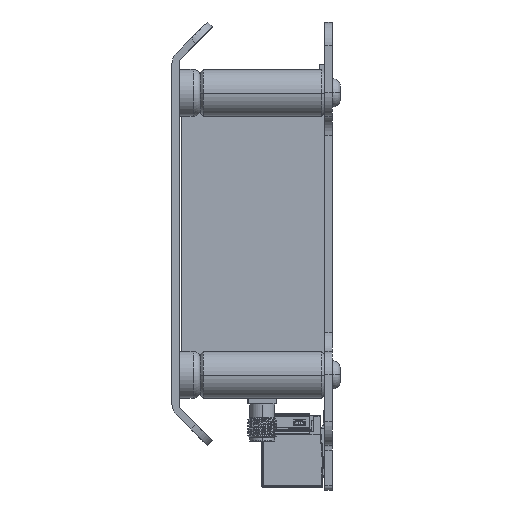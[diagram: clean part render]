
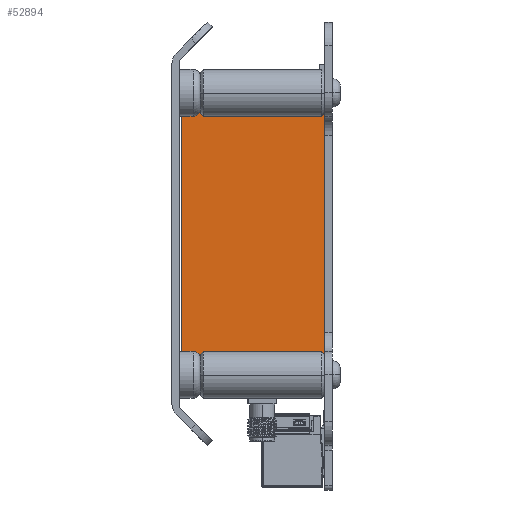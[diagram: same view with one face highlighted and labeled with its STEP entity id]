
A CAD part, left-side view. The second image highlights one B-rep face of the part: STEP entity #52894.
In plain terms, the highlighted planar face has unit normal (-1, 0, 0) as drawn and (0, 0, 1) by its records, which use the part's own axes.
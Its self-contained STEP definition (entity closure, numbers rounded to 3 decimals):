
#36 = LINE ( 'NONE', #51238, #3303 ) ;
#809 = DIRECTION ( 'NONE',  ( 0.423, 0.906, 0. ) ) ;
#1608 = VECTOR ( 'NONE', #37274, 1000. ) ;
#1854 = CARTESIAN_POINT ( 'NONE',  ( 1.156, 22.651, 1.6 ) ) ;
#2357 = CARTESIAN_POINT ( 'NONE',  ( 0., 0., 1.6 ) ) ;
#2648 = EDGE_CURVE ( 'NONE', #18624, #44728, #48655, .T. ) ;
#2911 = DIRECTION ( 'NONE',  ( 0., 0., 1. ) ) ;
#3127 = CARTESIAN_POINT ( 'NONE',  ( 67.2, 6.6, 1.6 ) ) ;
#3303 = VECTOR ( 'NONE', #47525, 1000. ) ;
#3489 = EDGE_CURVE ( 'NONE', #6807, #28738, #6637, .T. ) ;
#5268 = CARTESIAN_POINT ( 'NONE',  ( 66.044, 22.651, 1.6 ) ) ;
#5669 = DIRECTION ( 'NONE',  ( 0., 0., -1. ) ) ;
#5856 = EDGE_CURVE ( 'NONE', #12714, #46806, #50631, .T. ) ;
#6406 = DIRECTION ( 'NONE',  ( -0.053, 0.999, 0. ) ) ;
#6637 = LINE ( 'NONE', #17967, #8746 ) ;
#6807 = VERTEX_POINT ( 'NONE', #40993 ) ;
#6932 = EDGE_CURVE ( 'NONE', #46960, #24215, #36, .T. ) ;
#7369 = ORIENTED_EDGE ( 'NONE', *, *, #52528, .T. ) ;
#7688 = EDGE_CURVE ( 'NONE', #31958, #18624, #54524, .T. ) ;
#8057 = DIRECTION ( 'NONE',  ( 1., 0., 0. ) ) ;
#8223 = CARTESIAN_POINT ( 'NONE',  ( 1.1, 6.6, 1.6 ) ) ;
#8399 = CIRCLE ( 'NONE', #42212, 1.05 ) ;
#8746 = VECTOR ( 'NONE', #27135, 1000. ) ;
#8855 = ORIENTED_EDGE ( 'NONE', *, *, #7688, .T. ) ;
#9030 = EDGE_CURVE ( 'NONE', #46806, #45959, #17980, .T. ) ;
#9644 = CARTESIAN_POINT ( 'NONE',  ( 67.2, 0., 1.6 ) ) ;
#9915 = CARTESIAN_POINT ( 'NONE',  ( 1.156, 7.649, 1.6 ) ) ;
#10190 = LINE ( 'NONE', #9644, #53950 ) ;
#10527 = CARTESIAN_POINT ( 'NONE',  ( 1.156, 7.649, 1.6 ) ) ;
#10531 = CARTESIAN_POINT ( 'NONE',  ( 2.206, 22.651, 1.6 ) ) ;
#10606 = ORIENTED_EDGE ( 'NONE', *, *, #25832, .T. ) ;
#10804 = CARTESIAN_POINT ( 'NONE',  ( 66.1, 6.6, 1.6 ) ) ;
#11175 = VERTEX_POINT ( 'NONE', #39896 ) ;
#11266 = ORIENTED_EDGE ( 'NONE', *, *, #9030, .T. ) ;
#11530 = AXIS2_PLACEMENT_3D ( 'NONE', #1854, #28170, #6406 ) ;
#12714 = VERTEX_POINT ( 'NONE', #35511 ) ;
#13139 = VECTOR ( 'NONE', #19536, 1000. ) ;
#14100 = DIRECTION ( 'NONE',  ( 0., 0., -1. ) ) ;
#14133 = CARTESIAN_POINT ( 'NONE',  ( 0., 23.7, 1.6 ) ) ;
#14286 = CARTESIAN_POINT ( 'NONE',  ( 1.6, 21.7, 1.6 ) ) ;
#14306 = CARTESIAN_POINT ( 'NONE',  ( 67.2, 23.7, 1.6 ) ) ;
#14494 = ORIENTED_EDGE ( 'NONE', *, *, #29318, .T. ) ;
#15244 = CARTESIAN_POINT ( 'NONE',  ( 66.1, 23.7, 1.6 ) ) ;
#15471 = LINE ( 'NONE', #45829, #1608 ) ;
#15598 = EDGE_CURVE ( 'NONE', #51774, #11175, #8399, .T. ) ;
#17565 = DIRECTION ( 'NONE',  ( 0., 1., 0. ) ) ;
#17702 = CIRCLE ( 'NONE', #49694, 1.05 ) ;
#17967 = CARTESIAN_POINT ( 'NONE',  ( 0., 30.4, 1.6 ) ) ;
#17980 = CIRCLE ( 'NONE', #36302, 1.05 ) ;
#18119 = LINE ( 'NONE', #45029, #53335 ) ;
#18422 = CARTESIAN_POINT ( 'NONE',  ( 1.6, 21.7, 1.6 ) ) ;
#18624 = VERTEX_POINT ( 'NONE', #10531 ) ;
#19536 = DIRECTION ( 'NONE',  ( 0., -1., 0. ) ) ;
#20047 = VERTEX_POINT ( 'NONE', #14306 ) ;
#20183 = VERTEX_POINT ( 'NONE', #56057 ) ;
#20284 = VECTOR ( 'NONE', #44260, 1000. ) ;
#20801 = ORIENTED_EDGE ( 'NONE', *, *, #2648, .T. ) ;
#21356 = DIRECTION ( 'NONE',  ( -0.053, 0.999, 0. ) ) ;
#21692 = CARTESIAN_POINT ( 'NONE',  ( 65.6, 8.6, 1.6 ) ) ;
#22149 = ORIENTED_EDGE ( 'NONE', *, *, #33595, .T. ) ;
#22505 = VERTEX_POINT ( 'NONE', #15244 ) ;
#22517 = ORIENTED_EDGE ( 'NONE', *, *, #5856, .T. ) ;
#22702 = DIRECTION ( 'NONE',  ( 0., 0., -1. ) ) ;
#22754 = CARTESIAN_POINT ( 'NONE',  ( 1.6, 8.6, 1.6 ) ) ;
#24072 = CARTESIAN_POINT ( 'NONE',  ( 0., 23.7, 1.6 ) ) ;
#24215 = VERTEX_POINT ( 'NONE', #50897 ) ;
#25222 = VECTOR ( 'NONE', #33836, 1000. ) ;
#25558 = EDGE_LOOP ( 'NONE', ( #54016, #8855, #20801, #49835, #52908, #7369, #36897, #53404, #50078, #10606, #22517, #11266, #41059, #39685, #48172, #22149, #56113, #14494 ) ) ;
#25832 = EDGE_CURVE ( 'NONE', #46069, #12714, #10190, .T. ) ;
#26282 = CARTESIAN_POINT ( 'NONE',  ( 67.2, 0., 1.6 ) ) ;
#26589 = AXIS2_PLACEMENT_3D ( 'NONE', #44452, #14100, #21356 ) ;
#27107 = DIRECTION ( 'NONE',  ( 0., 1., 0. ) ) ;
#27117 = EDGE_CURVE ( 'NONE', #44728, #51774, #28015, .T. ) ;
#27135 = DIRECTION ( 'NONE',  ( -1., 0., 0. ) ) ;
#27377 = DIRECTION ( 'NONE',  ( 0., 0., -1. ) ) ;
#27675 = VECTOR ( 'NONE', #32618, 1000. ) ;
#28015 = LINE ( 'NONE', #14286, #27675 ) ;
#28170 = DIRECTION ( 'NONE',  ( 0., 0., -1. ) ) ;
#28738 = VERTEX_POINT ( 'NONE', #46143 ) ;
#29114 = CARTESIAN_POINT ( 'NONE',  ( 67.2, 23.7, 1.6 ) ) ;
#29135 = EDGE_CURVE ( 'NONE', #20183, #22505, #17702, .T. ) ;
#29256 = EDGE_CURVE ( 'NONE', #45959, #20183, #18119, .T. ) ;
#29318 = EDGE_CURVE ( 'NONE', #28738, #32522, #50735, .T. ) ;
#29530 = DIRECTION ( 'NONE',  ( 1., 0., 0. ) ) ;
#29543 = AXIS2_PLACEMENT_3D ( 'NONE', #10527, #5669, #54009 ) ;
#31482 = VERTEX_POINT ( 'NONE', #36963 ) ;
#31958 = VERTEX_POINT ( 'NONE', #52851 ) ;
#32522 = VERTEX_POINT ( 'NONE', #14133 ) ;
#32618 = DIRECTION ( 'NONE',  ( 0., -1., 0. ) ) ;
#33595 = EDGE_CURVE ( 'NONE', #20047, #6807, #46009, .T. ) ;
#33836 = DIRECTION ( 'NONE',  ( 1., 0., 0. ) ) ;
#34183 = VECTOR ( 'NONE', #8057, 1000. ) ;
#35511 = CARTESIAN_POINT ( 'NONE',  ( 67.2, 6.6, 1.6 ) ) ;
#36297 = DIRECTION ( 'NONE',  ( 0., 0., -1. ) ) ;
#36302 = AXIS2_PLACEMENT_3D ( 'NONE', #55468, #36297, #40574 ) ;
#36897 = ORIENTED_EDGE ( 'NONE', *, *, #6932, .T. ) ;
#36963 = CARTESIAN_POINT ( 'NONE',  ( 0., 0., 1.6 ) ) ;
#37274 = DIRECTION ( 'NONE',  ( 1., 0., 0. ) ) ;
#37555 = PLANE ( 'NONE',  #54234 ) ;
#38711 = LINE ( 'NONE', #47269, #34183 ) ;
#38893 = VECTOR ( 'NONE', #54919, 1000. ) ;
#39685 = ORIENTED_EDGE ( 'NONE', *, *, #29135, .T. ) ;
#39719 = CARTESIAN_POINT ( 'NONE',  ( 0., 6.6, 1.6 ) ) ;
#39896 = CARTESIAN_POINT ( 'NONE',  ( 2.206, 7.649, 1.6 ) ) ;
#40574 = DIRECTION ( 'NONE',  ( 0.052, -0.999, 0. ) ) ;
#40993 = CARTESIAN_POINT ( 'NONE',  ( 67.2, 30.4, 1.6 ) ) ;
#41059 = ORIENTED_EDGE ( 'NONE', *, *, #29256, .T. ) ;
#41295 = VECTOR ( 'NONE', #54585, 1000. ) ;
#42212 = AXIS2_PLACEMENT_3D ( 'NONE', #9915, #27377, #809 ) ;
#43407 = EDGE_CURVE ( 'NONE', #32522, #31958, #50406, .T. ) ;
#44260 = DIRECTION ( 'NONE',  ( 0., -1., 0. ) ) ;
#44452 = CARTESIAN_POINT ( 'NONE',  ( 1.156, 22.651, 1.6 ) ) ;
#44728 = VERTEX_POINT ( 'NONE', #18422 ) ;
#45029 = CARTESIAN_POINT ( 'NONE',  ( 65.6, 8.6, 1.6 ) ) ;
#45263 = EDGE_CURVE ( 'NONE', #22505, #20047, #15471, .T. ) ;
#45829 = CARTESIAN_POINT ( 'NONE',  ( 66.1, 23.7, 1.6 ) ) ;
#45959 = VERTEX_POINT ( 'NONE', #21692 ) ;
#46009 = LINE ( 'NONE', #29114, #41295 ) ;
#46069 = VERTEX_POINT ( 'NONE', #26282 ) ;
#46143 = CARTESIAN_POINT ( 'NONE',  ( 0., 30.4, 1.6 ) ) ;
#46171 = CARTESIAN_POINT ( 'NONE',  ( 0., 30.6, 1.6 ) ) ;
#46806 = VERTEX_POINT ( 'NONE', #10804 ) ;
#46960 = VERTEX_POINT ( 'NONE', #8223 ) ;
#47269 = CARTESIAN_POINT ( 'NONE',  ( 0., 0., 1.6 ) ) ;
#47525 = DIRECTION ( 'NONE',  ( -1., 0., 0. ) ) ;
#48172 = ORIENTED_EDGE ( 'NONE', *, *, #45263, .T. ) ;
#48207 = DIRECTION ( 'NONE',  ( -0.423, -0.906, 0. ) ) ;
#48655 = CIRCLE ( 'NONE', #26589, 1.05 ) ;
#49694 = AXIS2_PLACEMENT_3D ( 'NONE', #5268, #22702, #48207 ) ;
#49835 = ORIENTED_EDGE ( 'NONE', *, *, #27117, .T. ) ;
#50078 = ORIENTED_EDGE ( 'NONE', *, *, #53062, .T. ) ;
#50406 = LINE ( 'NONE', #24072, #25222 ) ;
#50631 = LINE ( 'NONE', #3127, #38893 ) ;
#50735 = LINE ( 'NONE', #46171, #13139 ) ;
#50897 = CARTESIAN_POINT ( 'NONE',  ( 0., 6.6, 1.6 ) ) ;
#51238 = CARTESIAN_POINT ( 'NONE',  ( 1.1, 6.6, 1.6 ) ) ;
#51758 = EDGE_CURVE ( 'NONE', #24215, #31482, #53394, .T. ) ;
#51774 = VERTEX_POINT ( 'NONE', #22754 ) ;
#52528 = EDGE_CURVE ( 'NONE', #11175, #46960, #54186, .T. ) ;
#52851 = CARTESIAN_POINT ( 'NONE',  ( 1.1, 23.7, 1.6 ) ) ;
#52894 = ADVANCED_FACE ( 'NONE', ( #55830 ), #37555, .T. ) ;
#52908 = ORIENTED_EDGE ( 'NONE', *, *, #15598, .T. ) ;
#53062 = EDGE_CURVE ( 'NONE', #31482, #46069, #38711, .T. ) ;
#53335 = VECTOR ( 'NONE', #17565, 1000. ) ;
#53394 = LINE ( 'NONE', #39719, #20284 ) ;
#53404 = ORIENTED_EDGE ( 'NONE', *, *, #51758, .T. ) ;
#53950 = VECTOR ( 'NONE', #27107, 1000. ) ;
#54009 = DIRECTION ( 'NONE',  ( 0.423, 0.906, 0. ) ) ;
#54016 = ORIENTED_EDGE ( 'NONE', *, *, #43407, .T. ) ;
#54186 = CIRCLE ( 'NONE', #29543, 1.05 ) ;
#54234 = AXIS2_PLACEMENT_3D ( 'NONE', #2357, #2911, #29530 ) ;
#54524 = CIRCLE ( 'NONE', #11530, 1.05 ) ;
#54585 = DIRECTION ( 'NONE',  ( 0., 1., 0. ) ) ;
#54919 = DIRECTION ( 'NONE',  ( -1., 0., 0. ) ) ;
#55468 = CARTESIAN_POINT ( 'NONE',  ( 66.045, 7.649, 1.6 ) ) ;
#55830 = FACE_OUTER_BOUND ( 'NONE', #25558, .T. ) ;
#56057 = CARTESIAN_POINT ( 'NONE',  ( 65.6, 21.7, 1.6 ) ) ;
#56113 = ORIENTED_EDGE ( 'NONE', *, *, #3489, .T. ) ;
